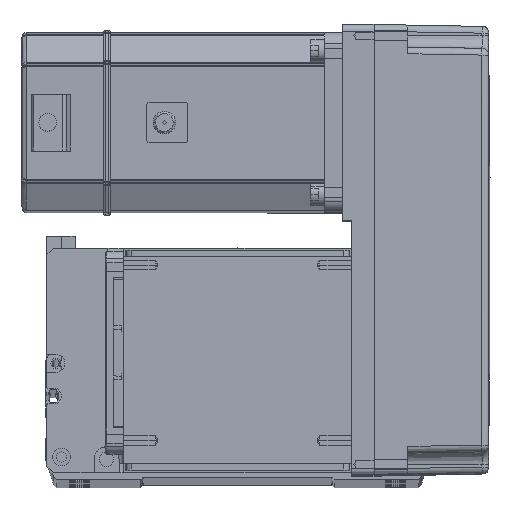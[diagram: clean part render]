
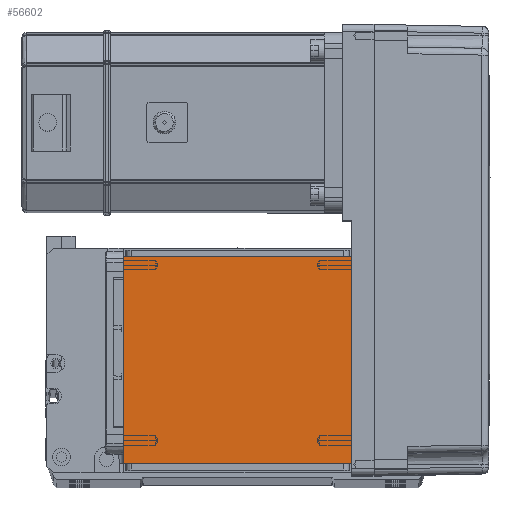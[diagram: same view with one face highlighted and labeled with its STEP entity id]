
A CAD part, top view. The second image highlights one B-rep face of the part: STEP entity #56602.
In plain terms, the highlighted planar face has unit normal (0, 0, 1).
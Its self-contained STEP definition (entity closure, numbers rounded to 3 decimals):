
#1605 = FACE_OUTER_BOUND ( 'NONE', #58697, .T. ) ;
#4380 = VECTOR ( 'NONE', #17507, 1000. ) ;
#6269 = ORIENTED_EDGE ( 'NONE', *, *, #57563, .F. ) ;
#6496 = CARTESIAN_POINT ( 'NONE',  ( -50.5, 122., 115. ) ) ;
#9558 = CARTESIAN_POINT ( 'NONE',  ( -50.5, 20., 115. ) ) ;
#9567 = DIRECTION ( 'NONE',  ( 0., 0., 1. ) ) ;
#9833 = VECTOR ( 'NONE', #25492, 1000. ) ;
#11551 = VERTEX_POINT ( 'NONE', #9558 ) ;
#17507 = DIRECTION ( 'NONE',  ( 0., 1., 0. ) ) ;
#22367 = DIRECTION ( 'NONE',  ( -1., 0., 0. ) ) ;
#22569 = CARTESIAN_POINT ( 'NONE',  ( 50.5, 122., 115. ) ) ;
#25492 = DIRECTION ( 'NONE',  ( 1., 0., 0. ) ) ;
#27774 = DIRECTION ( 'NONE',  ( 1., 0., 0. ) ) ;
#27787 = ORIENTED_EDGE ( 'NONE', *, *, #49512, .F. ) ;
#28809 = LINE ( 'NONE', #6496, #29538 ) ;
#29291 = LINE ( 'NONE', #39737, #9833 ) ;
#29538 = VECTOR ( 'NONE', #30559, 1000. ) ;
#30559 = DIRECTION ( 'NONE',  ( 0., -1., 0. ) ) ;
#31905 = VERTEX_POINT ( 'NONE', #41182 ) ;
#33929 = EDGE_CURVE ( 'NONE', #54197, #31905, #39594, .T. ) ;
#37404 = PLANE ( 'NONE',  #49230 ) ;
#39594 = LINE ( 'NONE', #22569, #4380 ) ;
#39737 = CARTESIAN_POINT ( 'NONE',  ( -70.004, 111.5, 115. ) ) ;
#40961 = CARTESIAN_POINT ( 'NONE',  ( -50.5, 111.5, 115. ) ) ;
#41182 = CARTESIAN_POINT ( 'NONE',  ( 50.5, 111.5, 115. ) ) ;
#44143 = LINE ( 'NONE', #56396, #58298 ) ;
#44748 = ORIENTED_EDGE ( 'NONE', *, *, #54075, .T. ) ;
#49230 = AXIS2_PLACEMENT_3D ( 'NONE', #57039, #9567, #27774 ) ;
#49512 = EDGE_CURVE ( 'NONE', #61023, #31905, #29291, .T. ) ;
#54075 = EDGE_CURVE ( 'NONE', #61023, #11551, #28809, .T. ) ;
#54197 = VERTEX_POINT ( 'NONE', #60814 ) ;
#56396 = CARTESIAN_POINT ( 'NONE',  ( -70.004, 20., 115. ) ) ;
#56602 = ADVANCED_FACE ( 'NONE', ( #1605 ), #37404, .T. ) ;
#57039 = CARTESIAN_POINT ( 'NONE',  ( 0., 0., 115. ) ) ;
#57563 = EDGE_CURVE ( 'NONE', #54197, #11551, #44143, .T. ) ;
#58298 = VECTOR ( 'NONE', #22367, 1000. ) ;
#58697 = EDGE_LOOP ( 'NONE', ( #27787, #44748, #6269, #61284 ) ) ;
#60814 = CARTESIAN_POINT ( 'NONE',  ( 50.5, 20., 115. ) ) ;
#61023 = VERTEX_POINT ( 'NONE', #40961 ) ;
#61284 = ORIENTED_EDGE ( 'NONE', *, *, #33929, .T. ) ;
